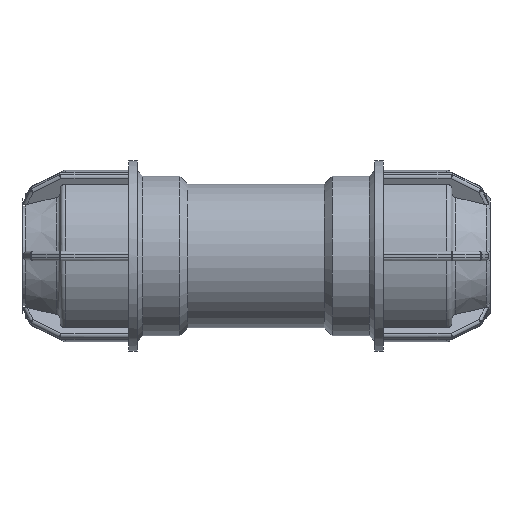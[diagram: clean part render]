
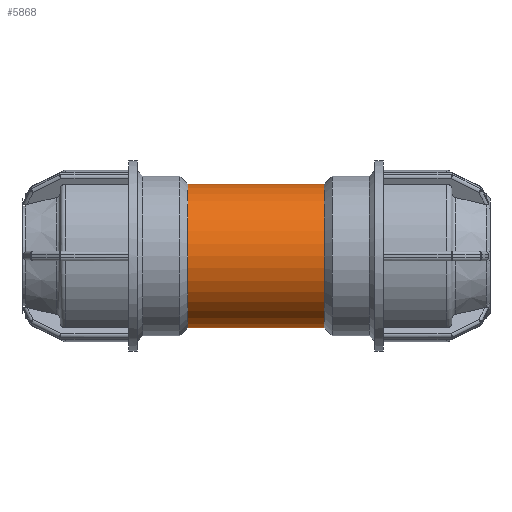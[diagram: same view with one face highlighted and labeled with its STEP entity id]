
A CAD part, front view. The second image highlights one B-rep face of the part: STEP entity #5868.
In plain terms, the highlighted cylindrical face has radius 23.04 mm (diameter 46.08 mm), a full revolution.
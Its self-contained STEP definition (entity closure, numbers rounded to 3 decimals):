
#1047=B_SPLINE_CURVE_WITH_KNOTS('',3,(#8914,#8915,#8916,#8917,#8918,#8919,
#8920,#8921,#8922,#8923,#8924,#8925,#8926,#8927,#8928,#8929,#8930,#8931,
#8932,#8933,#8934,#8935,#8936,#8937,#8938,#8939,#8940,#8941,#8942,#8943,
#8944,#8945,#8946,#8947,#8948,#8949,#8950,#8951,#8952,#8953,#8954,#8955,
#8956,#8957,#8958,#8959,#8960,#8961,#8962,#8963),.UNSPECIFIED.,.T.,.F.,
(4,2,2,2,2,2,2,2,2,2,2,2,2,2,2,2,2,2,2,2,2,2,2,2,4),(0.,0.243,
0.485,0.97,1.454,1.695,1.937,
2.178,2.42,2.903,3.388,3.631,
3.873,4.116,4.359,4.844,5.327,
5.569,5.81,6.052,6.293,6.777,
7.262,7.504,7.747),.UNSPECIFIED.);
#1229=FACE_BOUND('',#1680,.T.);
#1230=FACE_BOUND('',#1681,.T.);
#1269=FACE_OUTER_BOUND('',#1679,.T.);
#1679=EDGE_LOOP('',(#3924));
#1680=EDGE_LOOP('',(#3925));
#1681=EDGE_LOOP('',(#3926));
#2129=CIRCLE('',#6281,23.04);
#2130=CIRCLE('',#6282,23.04);
#2474=VERTEX_POINT('',#8909);
#2475=VERTEX_POINT('',#8911);
#2476=VERTEX_POINT('',#8913);
#3013=EDGE_CURVE('',#2474,#2474,#2129,.T.);
#3014=EDGE_CURVE('',#2475,#2475,#2130,.T.);
#3015=EDGE_CURVE('',#2476,#2476,#1047,.T.);
#3924=ORIENTED_EDGE('',*,*,#3013,.F.);
#3925=ORIENTED_EDGE('',*,*,#3014,.T.);
#3926=ORIENTED_EDGE('',*,*,#3015,.F.);
#5746=CYLINDRICAL_SURFACE('',#6280,23.04);
#5868=ADVANCED_FACE('',(#1269,#1229,#1230),#5746,.T.);
#6280=AXIS2_PLACEMENT_3D('',#8908,#7037,#7038);
#6281=AXIS2_PLACEMENT_3D('',#8910,#7039,#7040);
#6282=AXIS2_PLACEMENT_3D('',#8912,#7041,#7042);
#7037=DIRECTION('center_axis',(1.,0.,0.));
#7038=DIRECTION('ref_axis',(0.,1.,0.));
#7039=DIRECTION('center_axis',(1.,0.,0.));
#7040=DIRECTION('ref_axis',(0.,0.,-1.));
#7041=DIRECTION('center_axis',(1.,0.,0.));
#7042=DIRECTION('ref_axis',(0.,0.,-1.));
#8908=CARTESIAN_POINT('Origin',(10.9,0.,0.));
#8909=CARTESIAN_POINT('',(21.8,23.04,0.));
#8910=CARTESIAN_POINT('Origin',(21.8,0.,0.));
#8911=CARTESIAN_POINT('',(-21.8,23.04,0.));
#8912=CARTESIAN_POINT('Origin',(-21.8,0.,0.));
#8913=CARTESIAN_POINT('',(0.,19.328,12.541));
#8914=CARTESIAN_POINT('Ctrl Pts',(0.,19.328,
12.541));
#8915=CARTESIAN_POINT('Ctrl Pts',(0.809,19.328,12.541));
#8916=CARTESIAN_POINT('Ctrl Pts',(1.637,19.38,12.461));
#8917=CARTESIAN_POINT('Ctrl Pts',(3.272,19.586,12.135));
#8918=CARTESIAN_POINT('Ctrl Pts',(4.078,19.739,11.888));
#8919=CARTESIAN_POINT('Ctrl Pts',(6.384,20.3,10.922));
#8920=CARTESIAN_POINT('Ctrl Pts',(7.771,20.808,9.965));
#8921=CARTESIAN_POINT('Ctrl Pts',(9.96,21.721,7.775));
#8922=CARTESIAN_POINT('Ctrl Pts',(10.921,22.193,6.388));
#8923=CARTESIAN_POINT('Ctrl Pts',(11.889,22.69,4.077));
#8924=CARTESIAN_POINT('Ctrl Pts',(12.136,22.822,3.269));
#8925=CARTESIAN_POINT('Ctrl Pts',(12.462,22.997,1.633));
#8926=CARTESIAN_POINT('Ctrl Pts',(12.541,23.04,0.805));
#8927=CARTESIAN_POINT('Ctrl Pts',(12.541,23.04,-0.805));
#8928=CARTESIAN_POINT('Ctrl Pts',(12.462,22.997,-1.633));
#8929=CARTESIAN_POINT('Ctrl Pts',(12.136,22.822,-3.269));
#8930=CARTESIAN_POINT('Ctrl Pts',(11.889,22.69,-4.077));
#8931=CARTESIAN_POINT('Ctrl Pts',(10.921,22.193,-6.388));
#8932=CARTESIAN_POINT('Ctrl Pts',(9.96,21.721,-7.775));
#8933=CARTESIAN_POINT('Ctrl Pts',(7.771,20.808,-9.965));
#8934=CARTESIAN_POINT('Ctrl Pts',(6.384,20.3,-10.922));
#8935=CARTESIAN_POINT('Ctrl Pts',(4.078,19.739,-11.888));
#8936=CARTESIAN_POINT('Ctrl Pts',(3.272,19.586,-12.135));
#8937=CARTESIAN_POINT('Ctrl Pts',(1.637,19.38,-12.461));
#8938=CARTESIAN_POINT('Ctrl Pts',(0.809,19.328,-12.541));
#8939=CARTESIAN_POINT('Ctrl Pts',(-0.809,19.328,-12.541));
#8940=CARTESIAN_POINT('Ctrl Pts',(-1.637,19.38,-12.461));
#8941=CARTESIAN_POINT('Ctrl Pts',(-3.272,19.586,-12.135));
#8942=CARTESIAN_POINT('Ctrl Pts',(-4.078,19.739,-11.888));
#8943=CARTESIAN_POINT('Ctrl Pts',(-6.384,20.3,-10.922));
#8944=CARTESIAN_POINT('Ctrl Pts',(-7.771,20.808,-9.965));
#8945=CARTESIAN_POINT('Ctrl Pts',(-9.96,21.721,-7.775));
#8946=CARTESIAN_POINT('Ctrl Pts',(-10.921,22.193,-6.388));
#8947=CARTESIAN_POINT('Ctrl Pts',(-11.889,22.69,-4.077));
#8948=CARTESIAN_POINT('Ctrl Pts',(-12.136,22.822,-3.269));
#8949=CARTESIAN_POINT('Ctrl Pts',(-12.462,22.997,-1.633));
#8950=CARTESIAN_POINT('Ctrl Pts',(-12.541,23.04,-0.805));
#8951=CARTESIAN_POINT('Ctrl Pts',(-12.541,23.04,0.805));
#8952=CARTESIAN_POINT('Ctrl Pts',(-12.462,22.997,1.633));
#8953=CARTESIAN_POINT('Ctrl Pts',(-12.136,22.822,3.269));
#8954=CARTESIAN_POINT('Ctrl Pts',(-11.889,22.69,4.077));
#8955=CARTESIAN_POINT('Ctrl Pts',(-10.921,22.193,6.388));
#8956=CARTESIAN_POINT('Ctrl Pts',(-9.96,21.721,7.775));
#8957=CARTESIAN_POINT('Ctrl Pts',(-7.771,20.808,9.965));
#8958=CARTESIAN_POINT('Ctrl Pts',(-6.384,20.3,10.922));
#8959=CARTESIAN_POINT('Ctrl Pts',(-4.078,19.739,11.888));
#8960=CARTESIAN_POINT('Ctrl Pts',(-3.272,19.586,12.135));
#8961=CARTESIAN_POINT('Ctrl Pts',(-1.637,19.38,12.461));
#8962=CARTESIAN_POINT('Ctrl Pts',(-0.809,19.328,12.541));
#8963=CARTESIAN_POINT('Ctrl Pts',(0.,19.328,12.541));
